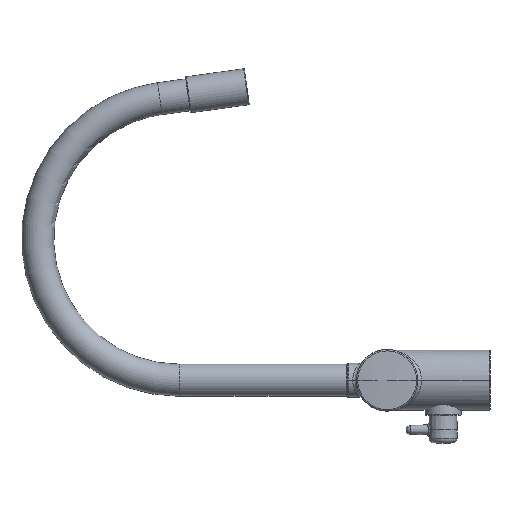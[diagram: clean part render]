
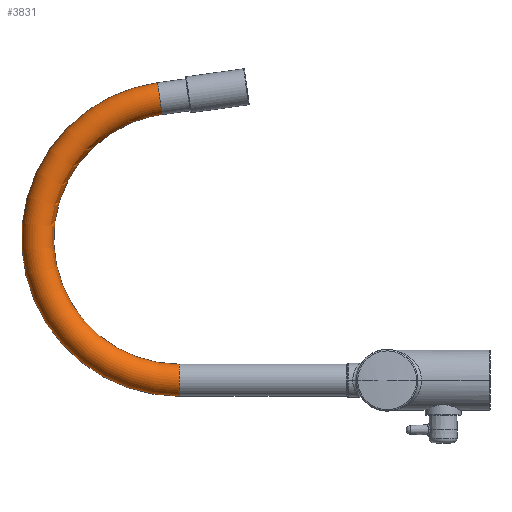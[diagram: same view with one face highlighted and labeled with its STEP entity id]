
A CAD part, left-side view. The second image highlights one B-rep face of the part: STEP entity #3831.
In plain terms, the highlighted toroidal (fillet/blend) face has major radius 110 mm and minor radius 12.5 mm.
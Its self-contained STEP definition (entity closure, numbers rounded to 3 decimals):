
#3591=CARTESIAN_POINT('',(-10.5,280.414,199.484));
#3592=CARTESIAN_POINT('',(-10.794,280.414,199.484));
#3593=CARTESIAN_POINT('',(-11.39,280.323,199.547));
#3594=CARTESIAN_POINT('',(-12.204,279.905,199.822));
#3595=CARTESIAN_POINT('',(-12.821,279.242,200.216));
#3596=CARTESIAN_POINT('',(-13.161,278.4,200.64));
#3597=CARTESIAN_POINT('',(-13.166,277.484,201.007));
#3598=CARTESIAN_POINT('',(-12.849,276.632,201.264));
#3599=CARTESIAN_POINT('',(-12.246,275.92,201.421));
#3600=CARTESIAN_POINT('',(-11.43,275.452,201.497));
#3601=CARTESIAN_POINT('',(-10.81,275.343,201.512));
#3602=CARTESIAN_POINT('',(-10.5,275.343,201.512));
#3604=CARTESIAN_POINT('',(-10.5,241.7,0.));
#3605=DIRECTION('',(0.,1.,0.));
#3606=DIRECTION('',(0.,0.,-1.));
#3607=AXIS2_PLACEMENT_3D('',#3604,#3605,#3606);
#3609=CARTESIAN_POINT('',(-10.5,241.7,110.));
#3610=DIRECTION('',(1.,0.,0.));
#3611=DIRECTION('',(0.,0.,-1.));
#3612=AXIS2_PLACEMENT_3D('',#3609,#3610,#3611);
#3648=CARTESIAN_POINT('',(-10.5,275.343,201.512));
#3659=CARTESIAN_POINT('',(-10.5,280.414,199.484));
#3661=CARTESIAN_POINT('',(-10.5,241.7,110.));
#3662=DIRECTION('',(1.,0.,0.));
#3663=DIRECTION('',(0.,0.345,0.939));
#3664=AXIS2_PLACEMENT_3D('',#3661,#3662,#3663);
#3671=CARTESIAN_POINT('',(-10.5,241.7,110.));
#3672=DIRECTION('',(1.,0.,0.));
#3673=DIRECTION('',(0.,0.,-1.));
#3674=AXIS2_PLACEMENT_3D('',#3671,#3672,#3673);
#3690=CARTESIAN_POINT('',(-10.5,256.7,218.972));
#3691=DIRECTION('',(0.,-0.991,0.136));
#3692=DIRECTION('',(0.,0.136,0.991));
#3693=AXIS2_PLACEMENT_3D('',#3690,#3691,#3692);
#3730=CARTESIAN_POINT('',(-10.5,241.7,12.5));
#3731=CARTESIAN_POINT('',(-10.5,241.7,-12.5));
#3732=VERTEX_POINT('',#3730);
#3733=VERTEX_POINT('',#3731);
#3738=CARTESIAN_POINT('',(-10.5,258.405,231.356));
#3739=VERTEX_POINT('',#3738);
#3740=CARTESIAN_POINT('',(-10.5,254.995,206.589));
#3741=VERTEX_POINT('',#3740);
#3750=VERTEX_POINT('',#3648);
#3751=VERTEX_POINT('',#3659);
#3813=CARTESIAN_POINT('',(-10.5,241.7,110.));
#3814=DIRECTION('',(1.,0.,0.));
#3815=DIRECTION('',(0.,0.,1.));
#3816=AXIS2_PLACEMENT_3D('',#3813,#3814,#3815);
#3817=TOROIDAL_SURFACE('',#3816,110.,12.5);
#3819=ORIENTED_EDGE('',*,*,#3818,.F.);
#3821=ORIENTED_EDGE('',*,*,#3820,.F.);
#3822=ORIENTED_EDGE('',*,*,#3802,.F.);
#3824=ORIENTED_EDGE('',*,*,#3823,.T.);
#3826=ORIENTED_EDGE('',*,*,#3825,.T.);
#3828=ORIENTED_EDGE('',*,*,#3827,.F.);
#3829=EDGE_LOOP('',(#3819,#3821,#3822,#3824,#3826,#3828));
#3830=FACE_OUTER_BOUND('',#3829,.F.);
#3603=B_SPLINE_CURVE_WITH_KNOTS('',3,(#3591,#3592,#3593,#3594,#3595,#3596,#3597,
#3598,#3599,#3600,#3601,#3602),.UNSPECIFIED.,.F.,.F.,(4,1,1,1,1,1,1,1,1,4),
(0.,0.111,0.222,0.333,0.444,
0.556,0.667,0.778,0.889,1.),
.UNSPECIFIED.);
#3608=CIRCLE('',#3607,12.5);
#3613=CIRCLE('',#3612,122.5);
#3665=CIRCLE('',#3664,97.5);
#3675=CIRCLE('',#3674,97.5);
#3694=CIRCLE('',#3693,12.5);
#3802=EDGE_CURVE('',#3733,#3732,#3608,.T.);
#3818=EDGE_CURVE('',#3751,#3750,#3603,.T.);
#3820=EDGE_CURVE('',#3732,#3751,#3675,.T.);
#3823=EDGE_CURVE('',#3733,#3739,#3613,.T.);
#3825=EDGE_CURVE('',#3739,#3741,#3694,.T.);
#3827=EDGE_CURVE('',#3750,#3741,#3665,.T.);
#3831=ADVANCED_FACE('',(#3830),#3817,.T.);
